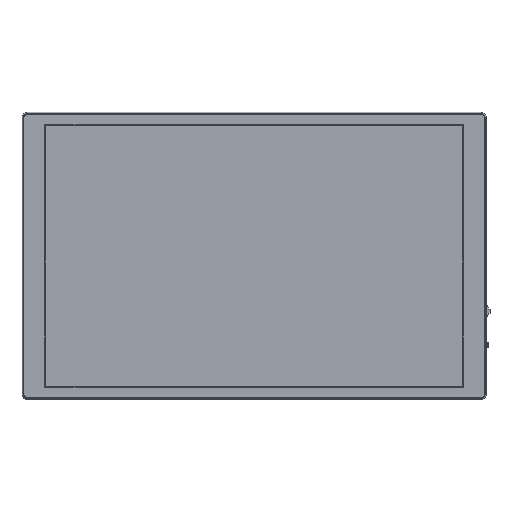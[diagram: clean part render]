
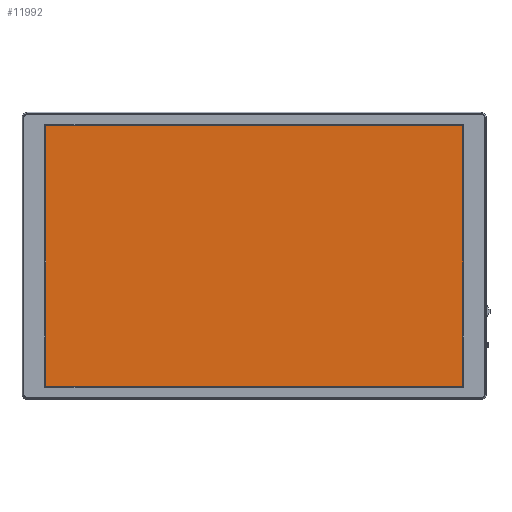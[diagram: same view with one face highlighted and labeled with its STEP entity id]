
A CAD part, top view. The second image highlights one B-rep face of the part: STEP entity #11992.
In plain terms, the highlighted planar face has unit normal (0, 0, 1).
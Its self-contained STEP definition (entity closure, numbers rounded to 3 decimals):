
#4351=DIRECTION('',(0.,-1.,0.));
#4352=VECTOR('',#4351,135.36);
#4353=CARTESIAN_POINT('',(-108.29,67.68,11.56));
#4354=LINE('',#4353,#4352);
#4355=DIRECTION('',(-1.,0.,0.));
#4356=VECTOR('',#4355,216.58);
#4357=CARTESIAN_POINT('',(108.29,67.68,11.56));
#4358=LINE('',#4357,#4356);
#4359=DIRECTION('',(0.,1.,0.));
#4360=VECTOR('',#4359,135.36);
#4361=CARTESIAN_POINT('',(108.29,-67.68,11.56));
#4362=LINE('',#4361,#4360);
#4363=DIRECTION('',(1.,0.,0.));
#4364=VECTOR('',#4363,216.58);
#4365=CARTESIAN_POINT('',(-108.29,-67.68,11.56));
#4366=LINE('',#4365,#4364);
#5593=CARTESIAN_POINT('',(-108.29,67.68,11.56));
#5594=CARTESIAN_POINT('',(-108.29,-67.68,11.56));
#5595=VERTEX_POINT('',#5593);
#5596=VERTEX_POINT('',#5594);
#5597=CARTESIAN_POINT('',(108.29,-67.68,11.56));
#5598=VERTEX_POINT('',#5597);
#5599=CARTESIAN_POINT('',(108.29,67.68,11.56));
#5600=VERTEX_POINT('',#5599);
#11981=CARTESIAN_POINT('',(0.,0.,11.56));
#11982=DIRECTION('',(0.,0.,1.));
#11983=DIRECTION('',(1.,0.,0.));
#11984=AXIS2_PLACEMENT_3D('',#11981,#11982,#11983);
#11985=PLANE('',#11984);
#11986=ORIENTED_EDGE('',*,*,#11933,.F.);
#11987=ORIENTED_EDGE('',*,*,#11948,.F.);
#11988=ORIENTED_EDGE('',*,*,#11962,.F.);
#11989=ORIENTED_EDGE('',*,*,#11975,.F.);
#11990=EDGE_LOOP('',(#11986,#11987,#11988,#11989));
#11991=FACE_OUTER_BOUND('',#11990,.F.);
#11992=ADVANCED_FACE('',(#11991),#11985,.T.);
#11933=EDGE_CURVE('',#5595,#5596,#4354,.T.);
#11948=EDGE_CURVE('',#5600,#5595,#4358,.T.);
#11962=EDGE_CURVE('',#5598,#5600,#4362,.T.);
#11975=EDGE_CURVE('',#5596,#5598,#4366,.T.);
